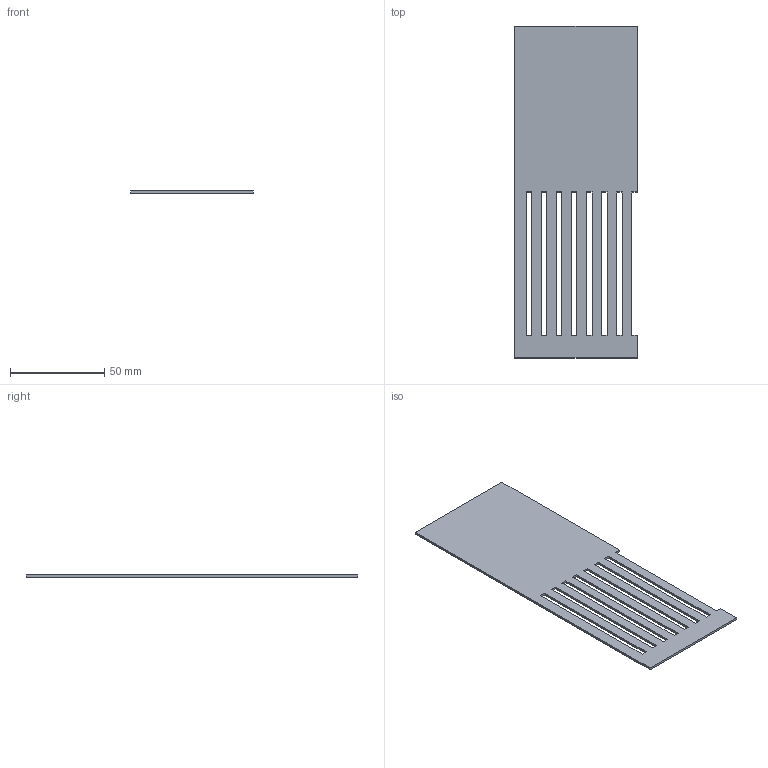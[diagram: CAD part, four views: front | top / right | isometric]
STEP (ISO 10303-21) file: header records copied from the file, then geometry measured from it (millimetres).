
FILE_DESCRIPTION(('Open CASCADE Model'),'2;1');
FILE_NAME('Open CASCADE Shape Model','2026-11-07T14:08:15',('Author'),( 'Open CASCADE'),'Open CASCADE STEP processor 7.9','Open CASCADE 7.9' ,'Unknown');
FILE_SCHEMA(('AUTOMOTIVE_DESIGN { 1 0 10303 214 1 1 1 1 }'));
Length unit declared in the file: millimetre
Products named in the file (1): Open CASCADE STEP translator 7.9 20
Bounding box: 65 x 176 x 1.2 mm (x, y, z)
Volume: 11539.2 mm3; surface area: 21144.8 mm2
Topology: 1 solids, 1 shells, 38 faces, 108 edges, 72 vertices
Faces by surface type: plane 38
Entity records: 2530 total; most frequent: CARTESIAN_POINT 559, DIRECTION 278, ORIENTED_EDGE 216, PCURVE 216, DEFINITIONAL_REPRESENTATION 216, LINE 200, VECTOR 200, B_SPLINE_CURVE_WITH_KNOTS 124
